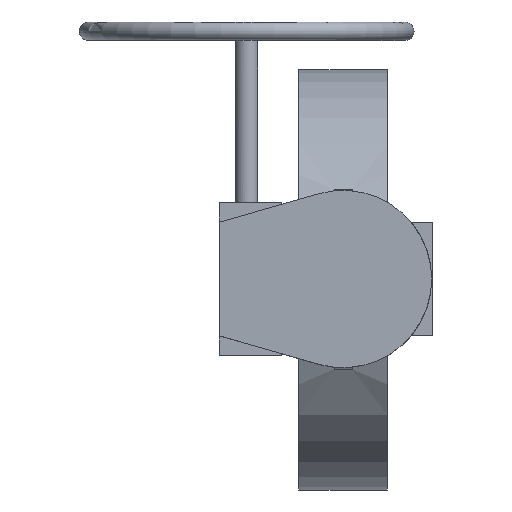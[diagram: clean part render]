
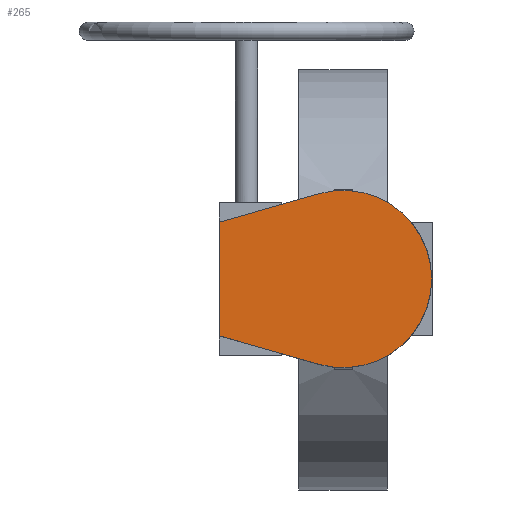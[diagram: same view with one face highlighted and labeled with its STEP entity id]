
A CAD part, top view. The second image highlights one B-rep face of the part: STEP entity #265.
In plain terms, the highlighted planar face has unit normal (0, 0, 1).
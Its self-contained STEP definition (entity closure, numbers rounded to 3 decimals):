
#265=ADVANCED_FACE('',(#7875),#7877,.T.);
#7875=FACE_BOUND('',#7876,.T.);
#7876=EDGE_LOOP('',(#13880,#13881,#13882,#13883));
#7877=PLANE('',#7878);
#7878=AXIS2_PLACEMENT_3D('',#7879,#7880,#7881);
#7879=CARTESIAN_POINT('',(0.,0.,385.));
#7880=DIRECTION('',(0.,0.,1.));
#7881=DIRECTION('',(0.,1.,0.));
#13880=ORIENTED_EDGE('',*,*,#18733,.T.);
#13881=ORIENTED_EDGE('',*,*,#18729,.T.);
#13882=ORIENTED_EDGE('',*,*,#18722,.T.);
#13883=ORIENTED_EDGE('',*,*,#18717,.T.);
#18717=EDGE_CURVE('',#21234,#21232,#21235,.T.);
#18722=EDGE_CURVE('',#21242,#21234,#21243,.T.);
#18729=EDGE_CURVE('',#21255,#21242,#21256,.T.);
#18733=EDGE_CURVE('',#21232,#21255,#21261,.T.);
#21232=VERTEX_POINT('',#25416);
#21234=VERTEX_POINT('',#25420);
#21235=LINE('',#25421,#25422);
#21242=VERTEX_POINT('',#25438);
#21243=LINE('',#25439,#25440);
#21255=VERTEX_POINT('',#25465);
#21256=LINE('',#25466,#25467);
#21261=CIRCLE('',#25479,78.);
#25416=CARTESIAN_POINT('',(-21.411,-75.004,385.));
#25420=CARTESIAN_POINT('',(-109.,-50.,385.));
#25421=CARTESIAN_POINT('',(-109.,-50.,385.));
#25422=VECTOR('',#25423,1.);
#25423=DIRECTION('',(0.962,-0.275,0.));
#25438=CARTESIAN_POINT('',(-109.,50.,385.));
#25439=CARTESIAN_POINT('',(-109.,50.,385.));
#25440=VECTOR('',#25441,1.);
#25441=DIRECTION('',(0.,-1.,0.));
#25465=CARTESIAN_POINT('',(-21.411,75.004,385.));
#25466=CARTESIAN_POINT('',(-21.411,75.004,385.));
#25467=VECTOR('',#25468,1.);
#25468=DIRECTION('',(-0.962,-0.275,0.));
#25479=AXIS2_PLACEMENT_3D('',#25480,#25481,#25482);
#25480=CARTESIAN_POINT('',(0.,0.,385.));
#25481=DIRECTION('',(0.,0.,1.));
#25482=DIRECTION('',(-0.275,-0.962,0.));
